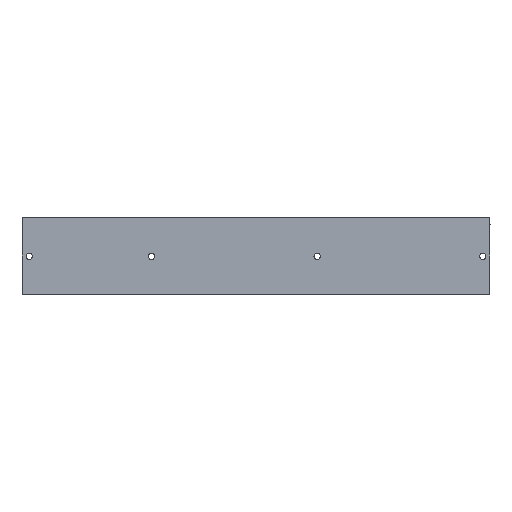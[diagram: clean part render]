
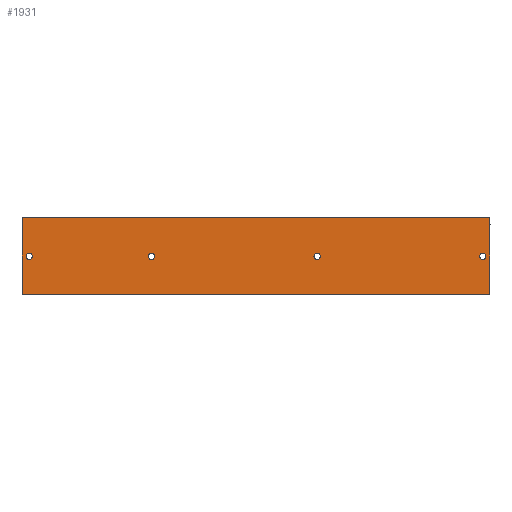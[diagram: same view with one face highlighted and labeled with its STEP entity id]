
A CAD part, front view. The second image highlights one B-rep face of the part: STEP entity #1931.
In plain terms, the highlighted planar face has unit normal (0, -1, 0).
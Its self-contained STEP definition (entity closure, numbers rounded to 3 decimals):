
#678 = CARTESIAN_POINT ( 'NONE',  ( 0., 0., 0. ) ) ;
#1902 = ORIENTED_EDGE ( 'NONE', *, *, #3371, .T. ) ;
#1931 = ADVANCED_FACE ( 'NONE', ( #10035, #16738, #33054, #7965, #25511 ), #12217, .F. ) ;
#2432 = DIRECTION ( 'NONE',  ( -1., 0., 0. ) ) ;
#2610 = CARTESIAN_POINT ( 'NONE',  ( 24.38, 0., 0. ) ) ;
#3371 = EDGE_CURVE ( 'NONE', #41871, #28041, #30796, .T. ) ;
#3403 = CIRCLE ( 'NONE', #36333, 0.164 ) ;
#3422 = VECTOR ( 'NONE', #2432, 39.37 ) ;
#3819 = VECTOR ( 'NONE', #7908, 39.37 ) ;
#4123 = CIRCLE ( 'NONE', #7933, 0.164 ) ;
#4236 = EDGE_CURVE ( 'NONE', #35583, #18239, #21605, .T. ) ;
#5416 = EDGE_LOOP ( 'NONE', ( #11834, #40920 ) ) ;
#6021 = AXIS2_PLACEMENT_3D ( 'NONE', #32124, #12554, #35362 ) ;
#6146 = CARTESIAN_POINT ( 'NONE',  ( 24.005, 0., -2.02 ) ) ;
#6378 = DIRECTION ( 'NONE',  ( 0., 1., 0. ) ) ;
#6993 = CIRCLE ( 'NONE', #6021, 0.164 ) ;
#7908 = DIRECTION ( 'NONE',  ( 0., 0., -1. ) ) ;
#7933 = AXIS2_PLACEMENT_3D ( 'NONE', #16596, #39340, #19936 ) ;
#7965 = FACE_BOUND ( 'NONE', #5416, .T. ) ;
#8352 = EDGE_CURVE ( 'NONE', #28041, #23669, #21124, .T. ) ;
#8578 = ORIENTED_EDGE ( 'NONE', *, *, #9648, .T. ) ;
#9476 = DIRECTION ( 'NONE',  ( 0., 0., 1. ) ) ;
#9648 = EDGE_CURVE ( 'NONE', #33830, #13009, #21941, .T. ) ;
#9890 = EDGE_CURVE ( 'NONE', #41871, #34544, #30035, .T. ) ;
#10035 = FACE_BOUND ( 'NONE', #36114, .T. ) ;
#10148 = ORIENTED_EDGE ( 'NONE', *, *, #31074, .T. ) ;
#11051 = CARTESIAN_POINT ( 'NONE',  ( 6.745, 0., -1.856 ) ) ;
#11102 = EDGE_LOOP ( 'NONE', ( #16545, #33680, #26648, #1902 ) ) ;
#11147 = CARTESIAN_POINT ( 'NONE',  ( 0.375, 0., -2.02 ) ) ;
#11190 = LINE ( 'NONE', #25530, #3422 ) ;
#11834 = ORIENTED_EDGE ( 'NONE', *, *, #30280, .T. ) ;
#12013 = DIRECTION ( 'NONE',  ( 0., 0., 1. ) ) ;
#12160 = DIRECTION ( 'NONE',  ( 0., 1., 0. ) ) ;
#12217 = PLANE ( 'NONE',  #15324 ) ;
#12554 = DIRECTION ( 'NONE',  ( 0., 1., 0. ) ) ;
#12936 = VERTEX_POINT ( 'NONE', #35928 ) ;
#13009 = VERTEX_POINT ( 'NONE', #27462 ) ;
#13869 = CARTESIAN_POINT ( 'NONE',  ( 24.38, 0., 0. ) ) ;
#13938 = AXIS2_PLACEMENT_3D ( 'NONE', #26120, #6378, #29350 ) ;
#14459 = DIRECTION ( 'NONE',  ( 0., 0., 1. ) ) ;
#14582 = ORIENTED_EDGE ( 'NONE', *, *, #4236, .T. ) ;
#15091 = DIRECTION ( 'NONE',  ( -1., 0., 0. ) ) ;
#15324 = AXIS2_PLACEMENT_3D ( 'NONE', #13869, #12160, #12013 ) ;
#15485 = DIRECTION ( 'NONE',  ( 0., 0., -1. ) ) ;
#15612 = CARTESIAN_POINT ( 'NONE',  ( 15.375, 0., -2.02 ) ) ;
#16021 = CARTESIAN_POINT ( 'NONE',  ( 0.375, 0., -2.02 ) ) ;
#16449 = CARTESIAN_POINT ( 'NONE',  ( 24.38, 0., 0. ) ) ;
#16545 = ORIENTED_EDGE ( 'NONE', *, *, #8352, .T. ) ;
#16596 = CARTESIAN_POINT ( 'NONE',  ( 6.745, 0., -2.02 ) ) ;
#16738 = FACE_BOUND ( 'NONE', #24497, .T. ) ;
#18239 = VERTEX_POINT ( 'NONE', #28420 ) ;
#18923 = DIRECTION ( 'NONE',  ( 0., 0., 1. ) ) ;
#19342 = DIRECTION ( 'NONE',  ( 0., 0., 1. ) ) ;
#19936 = DIRECTION ( 'NONE',  ( 0., 0., 1. ) ) ;
#20942 = CIRCLE ( 'NONE', #33439, 0.164 ) ;
#21124 = LINE ( 'NONE', #28510, #29762 ) ;
#21605 = CIRCLE ( 'NONE', #29922, 0.164 ) ;
#21700 = DIRECTION ( 'NONE',  ( 0., 0., 1. ) ) ;
#21753 = DIRECTION ( 'NONE',  ( 0., 1., 0. ) ) ;
#21762 = CARTESIAN_POINT ( 'NONE',  ( 6.745, 0., -2.02 ) ) ;
#21941 = CIRCLE ( 'NONE', #28436, 0.164 ) ;
#22413 = CARTESIAN_POINT ( 'NONE',  ( 24.005, 0., -2.184 ) ) ;
#23465 = VERTEX_POINT ( 'NONE', #39616 ) ;
#23513 = ORIENTED_EDGE ( 'NONE', *, *, #24670, .T. ) ;
#23669 = VERTEX_POINT ( 'NONE', #27757 ) ;
#24497 = EDGE_LOOP ( 'NONE', ( #37602, #39152 ) ) ;
#24670 = EDGE_CURVE ( 'NONE', #18239, #35583, #4123, .T. ) ;
#25274 = EDGE_CURVE ( 'NONE', #38587, #23465, #20942, .T. ) ;
#25511 = FACE_OUTER_BOUND ( 'NONE', #11102, .T. ) ;
#25530 = CARTESIAN_POINT ( 'NONE',  ( 24.38, 0., -4. ) ) ;
#26120 = CARTESIAN_POINT ( 'NONE',  ( 15.375, 0., -2.02 ) ) ;
#26648 = ORIENTED_EDGE ( 'NONE', *, *, #9890, .F. ) ;
#27436 = AXIS2_PLACEMENT_3D ( 'NONE', #11147, #33991, #14459 ) ;
#27462 = CARTESIAN_POINT ( 'NONE',  ( 0.375, 0., -2.184 ) ) ;
#27757 = CARTESIAN_POINT ( 'NONE',  ( 0., 0., -4. ) ) ;
#27914 = VERTEX_POINT ( 'NONE', #22413 ) ;
#28041 = VERTEX_POINT ( 'NONE', #678 ) ;
#28420 = CARTESIAN_POINT ( 'NONE',  ( 6.745, 0., -2.184 ) ) ;
#28436 = AXIS2_PLACEMENT_3D ( 'NONE', #16021, #38782, #19342 ) ;
#28510 = CARTESIAN_POINT ( 'NONE',  ( 0., 0., 0. ) ) ;
#29133 = DIRECTION ( 'NONE',  ( 0., 1., 0. ) ) ;
#29350 = DIRECTION ( 'NONE',  ( 0., 0., 1. ) ) ;
#29357 = EDGE_CURVE ( 'NONE', #23465, #38587, #41798, .T. ) ;
#29762 = VECTOR ( 'NONE', #15485, 39.37 ) ;
#29922 = AXIS2_PLACEMENT_3D ( 'NONE', #21762, #21753, #21700 ) ;
#30035 = LINE ( 'NONE', #40433, #3819 ) ;
#30280 = EDGE_CURVE ( 'NONE', #12936, #27914, #3403, .T. ) ;
#30796 = LINE ( 'NONE', #16449, #38378 ) ;
#31072 = CIRCLE ( 'NONE', #27436, 0.164 ) ;
#31074 = EDGE_CURVE ( 'NONE', #13009, #33830, #31072, .T. ) ;
#31655 = CARTESIAN_POINT ( 'NONE',  ( 24.38, 0., -4. ) ) ;
#32124 = CARTESIAN_POINT ( 'NONE',  ( 24.005, 0., -2.02 ) ) ;
#33054 = FACE_BOUND ( 'NONE', #39151, .T. ) ;
#33359 = EDGE_CURVE ( 'NONE', #34544, #23669, #11190, .T. ) ;
#33439 = AXIS2_PLACEMENT_3D ( 'NONE', #15612, #38368, #18923 ) ;
#33680 = ORIENTED_EDGE ( 'NONE', *, *, #33359, .F. ) ;
#33830 = VERTEX_POINT ( 'NONE', #38447 ) ;
#33991 = DIRECTION ( 'NONE',  ( 0., 1., 0. ) ) ;
#34097 = EDGE_CURVE ( 'NONE', #27914, #12936, #6993, .T. ) ;
#34544 = VERTEX_POINT ( 'NONE', #31655 ) ;
#35362 = DIRECTION ( 'NONE',  ( 0., 0., 1. ) ) ;
#35583 = VERTEX_POINT ( 'NONE', #11051 ) ;
#35823 = CARTESIAN_POINT ( 'NONE',  ( 15.375, 0., -2.184 ) ) ;
#35928 = CARTESIAN_POINT ( 'NONE',  ( 24.005, 0., -1.856 ) ) ;
#36114 = EDGE_LOOP ( 'NONE', ( #14582, #23513 ) ) ;
#36333 = AXIS2_PLACEMENT_3D ( 'NONE', #6146, #29133, #9476 ) ;
#37602 = ORIENTED_EDGE ( 'NONE', *, *, #29357, .T. ) ;
#38368 = DIRECTION ( 'NONE',  ( 0., 1., 0. ) ) ;
#38378 = VECTOR ( 'NONE', #15091, 39.37 ) ;
#38447 = CARTESIAN_POINT ( 'NONE',  ( 0.375, 0., -1.856 ) ) ;
#38587 = VERTEX_POINT ( 'NONE', #35823 ) ;
#38782 = DIRECTION ( 'NONE',  ( 0., 1., 0. ) ) ;
#39151 = EDGE_LOOP ( 'NONE', ( #8578, #10148 ) ) ;
#39152 = ORIENTED_EDGE ( 'NONE', *, *, #25274, .T. ) ;
#39340 = DIRECTION ( 'NONE',  ( 0., 1., 0. ) ) ;
#39616 = CARTESIAN_POINT ( 'NONE',  ( 15.375, 0., -1.856 ) ) ;
#40433 = CARTESIAN_POINT ( 'NONE',  ( 24.38, 0., 0. ) ) ;
#40920 = ORIENTED_EDGE ( 'NONE', *, *, #34097, .T. ) ;
#41798 = CIRCLE ( 'NONE', #13938, 0.164 ) ;
#41871 = VERTEX_POINT ( 'NONE', #2610 ) ;
